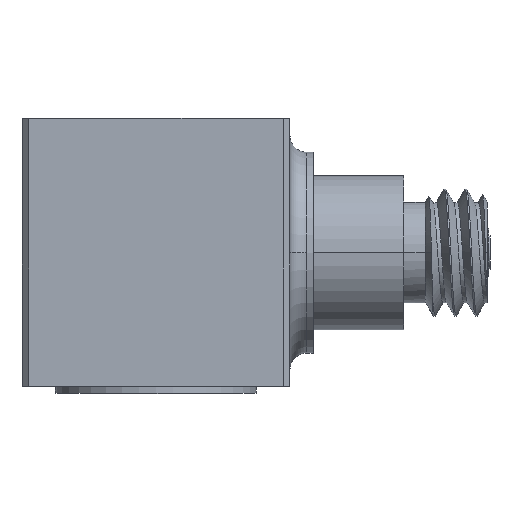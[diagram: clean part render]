
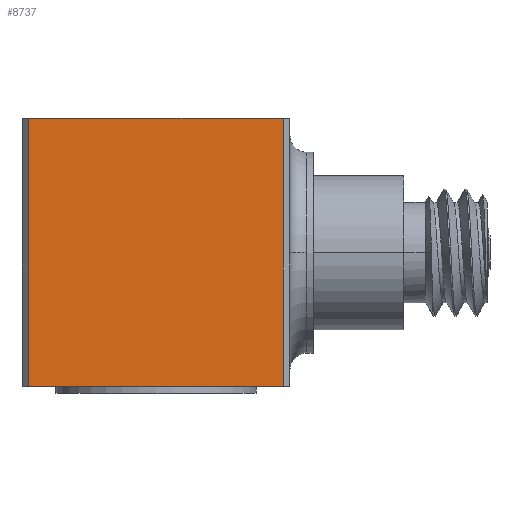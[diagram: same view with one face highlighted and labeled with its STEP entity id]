
A CAD part, top view. The second image highlights one B-rep face of the part: STEP entity #8737.
In plain terms, the highlighted planar face has unit normal (0, 0, 1).
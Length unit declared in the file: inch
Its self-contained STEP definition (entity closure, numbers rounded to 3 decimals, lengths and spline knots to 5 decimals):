
#209 = PLANE ( 'NONE',  #21317 ) ;
#1192 = ORIENTED_EDGE ( 'NONE', *, *, #3471, .F. ) ;
#1384 = DIRECTION ( 'NONE',  ( 1., 0., 0. ) ) ;
#3471 = EDGE_CURVE ( 'NONE', #15575, #13084, #7211, .T. ) ;
#3865 = LINE ( 'NONE', #17713, #13600 ) ;
#4930 = CARTESIAN_POINT ( 'NONE',  ( -0.2, 0.4, 0.2 ) ) ;
#5477 = CARTESIAN_POINT ( 'NONE',  ( 0.19, 0.4, 0.2 ) ) ;
#6406 = DIRECTION ( 'NONE',  ( 0., 1., 0. ) ) ;
#6786 = EDGE_LOOP ( 'NONE', ( #1192, #9667, #8701, #22878 ) ) ;
#7211 = LINE ( 'NONE', #4930, #16956 ) ;
#8701 = ORIENTED_EDGE ( 'NONE', *, *, #24886, .T. ) ;
#8737 = ADVANCED_FACE ( 'NONE', ( #10991 ), #209, .F. ) ;
#9212 = DIRECTION ( 'NONE',  ( 0., -1., 0. ) ) ;
#9667 = ORIENTED_EDGE ( 'NONE', *, *, #15572, .T. ) ;
#9950 = DIRECTION ( 'NONE',  ( 0., 0., -1. ) ) ;
#10991 = FACE_OUTER_BOUND ( 'NONE', #6786, .T. ) ;
#13084 = VERTEX_POINT ( 'NONE', #5477 ) ;
#13600 = VECTOR ( 'NONE', #19675, 39.37008 ) ;
#14023 = VECTOR ( 'NONE', #6406, 39.37008 ) ;
#15389 = VECTOR ( 'NONE', #9212, 39.37008 ) ;
#15572 = EDGE_CURVE ( 'NONE', #15575, #20348, #20568, .T. ) ;
#15575 = VERTEX_POINT ( 'NONE', #24743 ) ;
#16133 = CARTESIAN_POINT ( 'NONE',  ( 0.19, 0.4, 0.2 ) ) ;
#16956 = VECTOR ( 'NONE', #1384, 39.37008 ) ;
#16978 = CARTESIAN_POINT ( 'NONE',  ( -0.19, 0.4, 0.2 ) ) ;
#17474 = EDGE_CURVE ( 'NONE', #22668, #13084, #19173, .T. ) ;
#17713 = CARTESIAN_POINT ( 'NONE',  ( -0.2, 0., 0.2 ) ) ;
#19173 = LINE ( 'NONE', #16133, #14023 ) ;
#19653 = CARTESIAN_POINT ( 'NONE',  ( 0.19, 0., 0.2 ) ) ;
#19675 = DIRECTION ( 'NONE',  ( 1., 0., 0. ) ) ;
#20348 = VERTEX_POINT ( 'NONE', #23000 ) ;
#20568 = LINE ( 'NONE', #16978, #15389 ) ;
#21317 = AXIS2_PLACEMENT_3D ( 'NONE', #21671, #9950, #23634 ) ;
#21671 = CARTESIAN_POINT ( 'NONE',  ( -0.2, 0.4, 0.2 ) ) ;
#22668 = VERTEX_POINT ( 'NONE', #19653 ) ;
#22878 = ORIENTED_EDGE ( 'NONE', *, *, #17474, .T. ) ;
#23000 = CARTESIAN_POINT ( 'NONE',  ( -0.19, 0., 0.2 ) ) ;
#23634 = DIRECTION ( 'NONE',  ( -1., 0., 0. ) ) ;
#24743 = CARTESIAN_POINT ( 'NONE',  ( -0.19, 0.4, 0.2 ) ) ;
#24886 = EDGE_CURVE ( 'NONE', #20348, #22668, #3865, .T. ) ;
